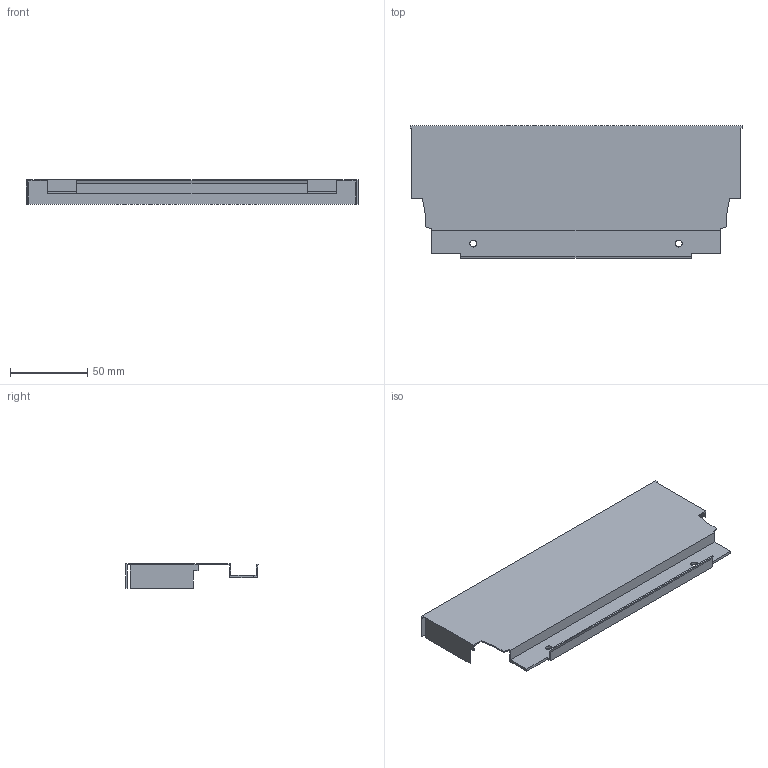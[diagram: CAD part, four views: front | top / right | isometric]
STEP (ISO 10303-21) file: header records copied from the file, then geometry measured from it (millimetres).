
FILE_DESCRIPTION (( 'STEP AP214' ), '1' );
FILE_NAME ('_DWD_XP Stahlrückwand_H86_KAB300_S18.step', '2010-07-08T12:10:16', ( 'grass' ), ( '' ), 'SwSTEP 2.0', 'SolidWorks 2010', '' );
FILE_SCHEMA (( 'AUTOMOTIVE_DESIGN' ));
Length unit declared in the file: millimetre
Products named in the file (1): _DWD_XP Stahlrückwand_H86_KAB300_S18
Bounding box: 215 x 85.79 x 16 mm (x, y, z)
Volume: 22304.8 mm3; surface area: 49414.6 mm2
Topology: 1 solids, 1 shells, 48 faces, 138 edges, 92 vertices
Faces by surface type: plane 44, cylinder 4
Entity records: 1592 total; most frequent: CARTESIAN_POINT 279, ORIENTED_EDGE 276, DIRECTION 244, EDGE_CURVE 138, LINE 130, VECTOR 130, VERTEX_POINT 92, AXIS2_PLACEMENT_3D 57
